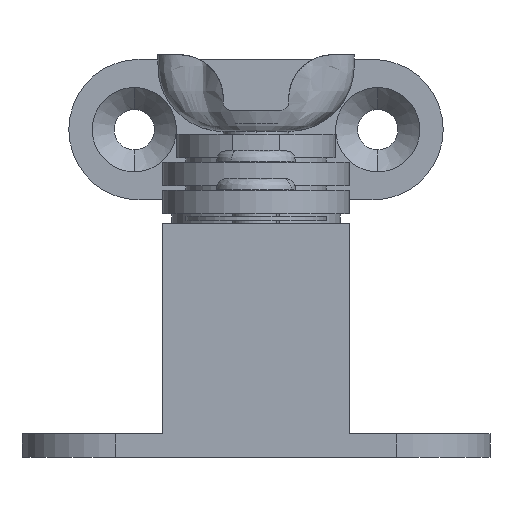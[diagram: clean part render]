
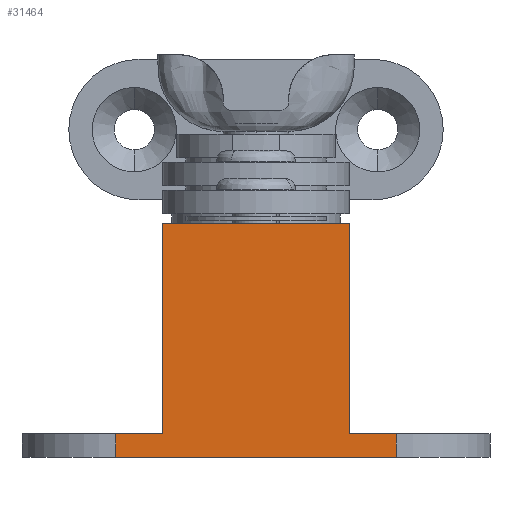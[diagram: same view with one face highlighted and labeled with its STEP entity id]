
A CAD part, left-side view. The second image highlights one B-rep face of the part: STEP entity #31464.
In plain terms, the highlighted planar face has unit normal (-1, 0, 0) as drawn and (0, 0, -1) by its records, which use the part's own axes.
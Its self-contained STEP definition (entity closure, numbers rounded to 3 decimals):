
#2613 = EDGE_CURVE ( 'NONE', #36378, #36326, #8846, .T. ) ;
#2614 = EDGE_CURVE ( 'NONE', #36326, #36417, #8848, .T. ) ;
#2615 = EDGE_CURVE ( 'NONE', #36381, #36402, #8842, .T. ) ;
#2616 = EDGE_CURVE ( 'NONE', #36381, #36337, #8850, .T. ) ;
#2618 = EDGE_CURVE ( 'NONE', #36382, #36378, #8856, .T. ) ;
#2623 = EDGE_CURVE ( 'NONE', #36337, #36385, #8864, .T. ) ;
#2627 = EDGE_CURVE ( 'NONE', #36385, #36382, #8871, .T. ) ;
#2639 = EDGE_CURVE ( 'NONE', #36417, #36402, #8887, .T. ) ;
#6407 = EDGE_LOOP ( 'NONE', ( #33173, #33174, #33175, #33176, #33177, #33178, #33179, #33180 ) ) ;
#8640 = CARTESIAN_POINT ( 'NONE',  ( 10., 11.25, -21.2 ) ) ;
#8643 = CARTESIAN_POINT ( 'NONE',  ( 0., 22.5, -21.2 ) ) ;
#8647 = CARTESIAN_POINT ( 'NONE',  ( 0., 22.5, -21.2 ) ) ;
#8648 = DIRECTION ( 'NONE',  ( 1., 0., 0. ) ) ;
#8649 = CARTESIAN_POINT ( 'NONE',  ( -10., 11.25, -21.2 ) ) ;
#8650 = DIRECTION ( 'NONE',  ( 0., -1., 0. ) ) ;
#8651 = DIRECTION ( 'NONE',  ( 0., -1., 0. ) ) ;
#8652 = DIRECTION ( 'NONE',  ( 0., -1., 0. ) ) ;
#8653 = CARTESIAN_POINT ( 'NONE',  ( -15., 12.5, -21.2 ) ) ;
#8654 = DIRECTION ( 'NONE',  ( 1., 0., 0. ) ) ;
#8667 = CARTESIAN_POINT ( 'NONE',  ( 15., 12.5, -21.2 ) ) ;
#8669 = DIRECTION ( 'NONE',  ( 0., 1., 0. ) ) ;
#8670 = CARTESIAN_POINT ( 'NONE',  ( 0., 25., -21.2 ) ) ;
#8671 = DIRECTION ( 'NONE',  ( -1., 0., 0. ) ) ;
#8701 = CARTESIAN_POINT ( 'NONE',  ( 0., 0., -21.2 ) ) ;
#8708 = DIRECTION ( 'NONE',  ( 1., 0., 0. ) ) ;
#8842 = LINE ( 'NONE', #8640, #8853 ) ;
#8846 = LINE ( 'NONE', #8647, #8849 ) ;
#8848 = LINE ( 'NONE', #8649, #8851 ) ;
#8849 = VECTOR ( 'NONE', #8648, 1000. ) ;
#8850 = LINE ( 'NONE', #8643, #8855 ) ;
#8851 = VECTOR ( 'NONE', #8651, 1000. ) ;
#8853 = VECTOR ( 'NONE', #8652, 1000. ) ;
#8855 = VECTOR ( 'NONE', #8654, 1000. ) ;
#8856 = LINE ( 'NONE', #8653, #8858 ) ;
#8858 = VECTOR ( 'NONE', #8650, 1000. ) ;
#8864 = LINE ( 'NONE', #8667, #8867 ) ;
#8867 = VECTOR ( 'NONE', #8669, 1000. ) ;
#8871 = LINE ( 'NONE', #8670, #8873 ) ;
#8873 = VECTOR ( 'NONE', #8671, 1000. ) ;
#8887 = LINE ( 'NONE', #8701, #8892 ) ;
#8892 = VECTOR ( 'NONE', #8708, 1000. ) ;
#14304 = CARTESIAN_POINT ( 'NONE',  ( -10., 22.5, -21.2 ) ) ;
#14322 = CARTESIAN_POINT ( 'NONE',  ( 15., 22.5, -21.2 ) ) ;
#14388 = CARTESIAN_POINT ( 'NONE',  ( -15., 22.5, -21.2 ) ) ;
#14394 = CARTESIAN_POINT ( 'NONE',  ( 10., 22.5, -21.2 ) ) ;
#14396 = CARTESIAN_POINT ( 'NONE',  ( -15., 25., -21.2 ) ) ;
#14399 = CARTESIAN_POINT ( 'NONE',  ( 15., 25., -21.2 ) ) ;
#14428 = CARTESIAN_POINT ( 'NONE',  ( 10., 0., -21.2 ) ) ;
#14452 = CARTESIAN_POINT ( 'NONE',  ( -10., 0., -21.2 ) ) ;
#15427 = FACE_OUTER_BOUND ( 'NONE', #6407, .T. ) ;
#19142 = AXIS2_PLACEMENT_3D ( 'NONE', #24991, #24995, #24996 ) ;
#24991 = CARTESIAN_POINT ( 'NONE',  ( -15., 0., -21.2 ) ) ;
#24993 = PLANE ( 'NONE',  #19142 ) ;
#24995 = DIRECTION ( 'NONE',  ( 0., 0., 1. ) ) ;
#24996 = DIRECTION ( 'NONE',  ( 1., 0., 0. ) ) ;
#31464 = ADVANCED_FACE ( 'NONE', ( #15427 ), #24993, .F. ) ;
#33173 = ORIENTED_EDGE ( 'NONE', *, *, #2616, .F. ) ;
#33174 = ORIENTED_EDGE ( 'NONE', *, *, #2615, .T. ) ;
#33175 = ORIENTED_EDGE ( 'NONE', *, *, #2639, .F. ) ;
#33176 = ORIENTED_EDGE ( 'NONE', *, *, #2614, .F. ) ;
#33177 = ORIENTED_EDGE ( 'NONE', *, *, #2613, .F. ) ;
#33178 = ORIENTED_EDGE ( 'NONE', *, *, #2618, .F. ) ;
#33179 = ORIENTED_EDGE ( 'NONE', *, *, #2627, .F. ) ;
#33180 = ORIENTED_EDGE ( 'NONE', *, *, #2623, .F. ) ;
#36326 = VERTEX_POINT ( 'NONE', #14304 ) ;
#36337 = VERTEX_POINT ( 'NONE', #14322 ) ;
#36378 = VERTEX_POINT ( 'NONE', #14388 ) ;
#36381 = VERTEX_POINT ( 'NONE', #14394 ) ;
#36382 = VERTEX_POINT ( 'NONE', #14396 ) ;
#36385 = VERTEX_POINT ( 'NONE', #14399 ) ;
#36402 = VERTEX_POINT ( 'NONE', #14428 ) ;
#36417 = VERTEX_POINT ( 'NONE', #14452 ) ;
